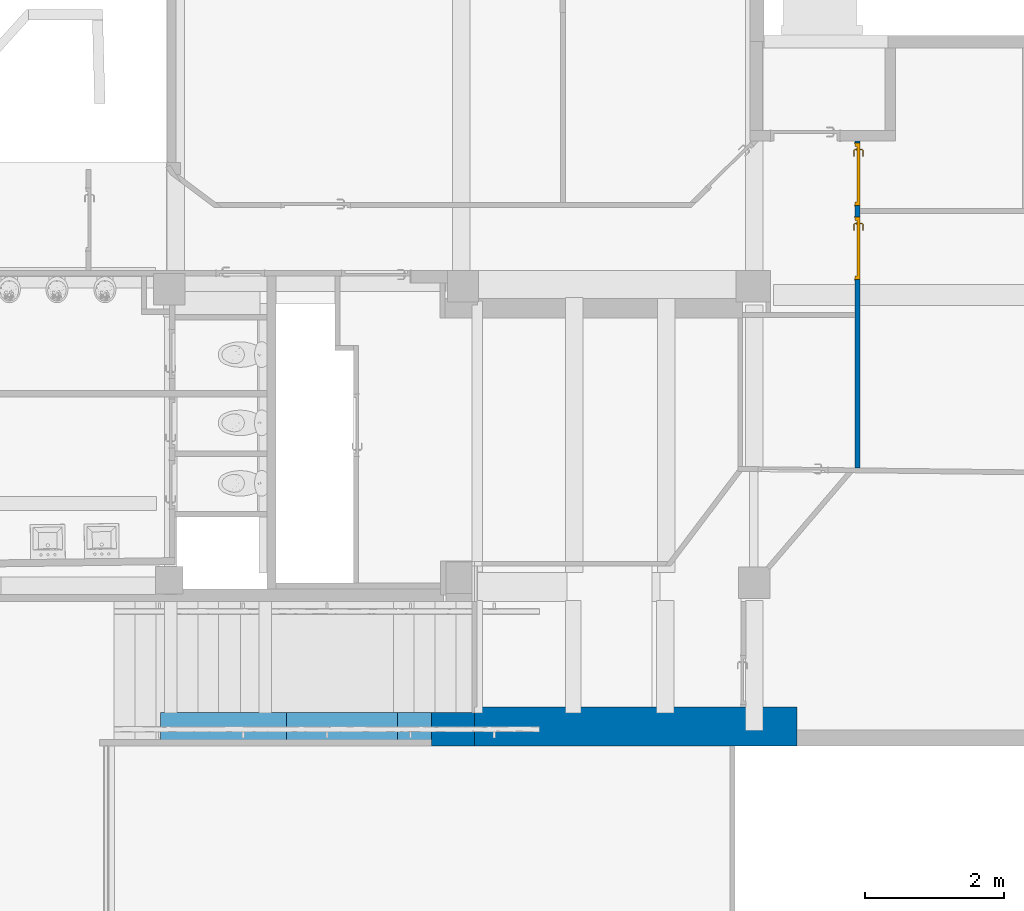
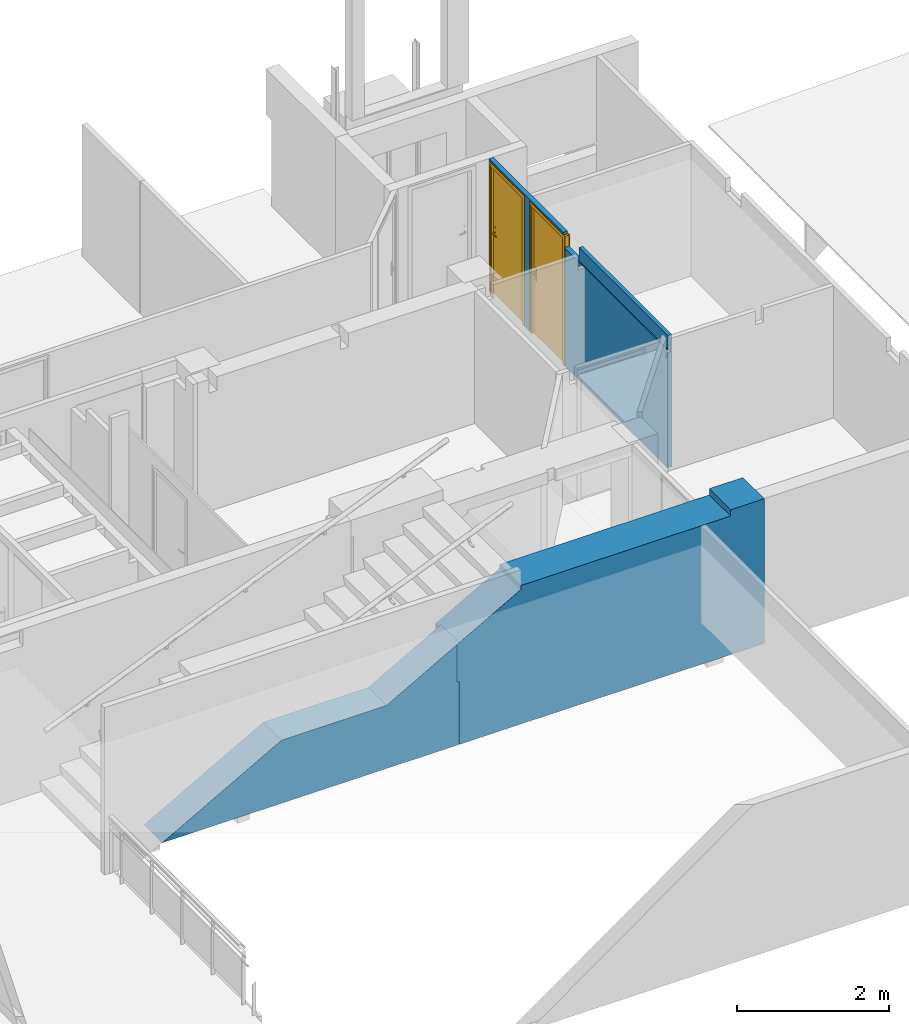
# One storey, part 15 of 32: 3 walls, 2 doors, 3 openings.
"""IFC4 building model written with IfcOpenShell, lengths in metres."""

from ifc_helpers import new_model, entity, si_unit, converted_unit, derived_unit, direction, frame, origin, place, context, subcontext, project, spatial, indexed_curve, outline, extrude, polygons, source, transform, mapped, material, material_list, layer, layer_set, constituent, constituent_set, type_object, type_shapes, element, fill, save


model = new_model("IFC4")

# Units and contexts
model_context = context("Model", 3, precision=1e-05, world=origin(), true_north=direction((6.12303176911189e-17, 1.0)))
body_context = subcontext(model_context, "Body", "Model", "MODEL_VIEW")
ifc_project = project(units=[si_unit("LENGTHUNIT", "METRE"), si_unit("AREAUNIT", "SQUARE_METRE"), si_unit("VOLUMEUNIT", "CUBIC_METRE"), converted_unit("PLANEANGLEUNIT", "DEGREE", entity("IfcRatioMeasure", 0.0174532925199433), si_unit("PLANEANGLEUNIT", "RADIAN"), dimensions=[0, 0, 0, 0, 0, 0, 0]), si_unit("MASSUNIT", "GRAM", prefix="KILO"), derived_unit("MASSDENSITYUNIT", [(si_unit("MASSUNIT", "GRAM", prefix="KILO"), 1), (si_unit("LENGTHUNIT", "METRE"), -3)]), derived_unit("MOMENTOFINERTIAUNIT", [(si_unit("LENGTHUNIT", "METRE"), 4)]), si_unit("TIMEUNIT", "SECOND"), si_unit("FREQUENCYUNIT", "HERTZ"), si_unit("THERMODYNAMICTEMPERATUREUNIT", "DEGREE_CELSIUS"), derived_unit("THERMALTRANSMITTANCEUNIT", [(si_unit("MASSUNIT", "GRAM", prefix="KILO"), 1), (si_unit("THERMODYNAMICTEMPERATUREUNIT", "KELVIN"), -1), (si_unit("TIMEUNIT", "SECOND"), -3)]), derived_unit("VOLUMETRICFLOWRATEUNIT", [(si_unit("LENGTHUNIT", "METRE"), 3), (si_unit("TIMEUNIT", "SECOND"), -1)]), si_unit("ELECTRICCURRENTUNIT", "AMPERE"), si_unit("ELECTRICVOLTAGEUNIT", "VOLT"), si_unit("POWERUNIT", "WATT"), si_unit("FORCEUNIT", "NEWTON", prefix="KILO"), si_unit("ILLUMINANCEUNIT", "LUX"), si_unit("LUMINOUSFLUXUNIT", "LUMEN"), si_unit("LUMINOUSINTENSITYUNIT", "CANDELA"), derived_unit("USERDEFINED", [(si_unit("MASSUNIT", "GRAM", prefix="KILO"), -1), (si_unit("LENGTHUNIT", "METRE"), -2), (si_unit("TIMEUNIT", "SECOND"), 3), (si_unit("LUMINOUSFLUXUNIT", "LUMEN"), 1)]), derived_unit("LINEARVELOCITYUNIT", [(si_unit("LENGTHUNIT", "METRE"), 1), (si_unit("TIMEUNIT", "SECOND"), -1)]), si_unit("PRESSUREUNIT", "PASCAL"), derived_unit("USERDEFINED", [(si_unit("LENGTHUNIT", "METRE"), -2), (si_unit("MASSUNIT", "GRAM", prefix="KILO"), 1), (si_unit("TIMEUNIT", "SECOND"), -2)]), derived_unit("LINEARFORCEUNIT", [(si_unit("MASSUNIT", "GRAM", prefix="KILO"), 1), (si_unit("LENGTHUNIT", "METRE"), 1), (si_unit("TIMEUNIT", "SECOND"), -2), (si_unit("LENGTHUNIT", "METRE"), -1)]), derived_unit("PLANARFORCEUNIT", [(si_unit("MASSUNIT", "GRAM", prefix="KILO"), 1), (si_unit("LENGTHUNIT", "METRE"), 1), (si_unit("TIMEUNIT", "SECOND"), -2), (si_unit("LENGTHUNIT", "METRE"), -2)])], contexts=[model_context])

# Site, building, storey
site_placement = place(None, origin())
site = spatial("IfcSite", under=ifc_project, at=site_placement, Name="Default", CompositionType="ELEMENT")
building_placement = place(site_placement, origin())
building = spatial("IfcBuilding", under=site, at=building_placement, Name="HOTEL CONSULAIRE BOULOGNE SUR MER", CompositionType="ELEMENT")
storey_placement = place(building_placement, frame((0.0, 0.0, -2.70343668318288)))
storey = spatial("IfcBuildingStorey", under=building, at=storey_placement, Name="SS1", CompositionType="ELEMENT", Elevation=-2.70343668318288)

# Wall, openings, doors
ifc_material_1 = material(Name="Mur par défaut", Category="Divers")
ifc_layer_1 = layer(ifc_material_1, 0.07, Name="Mur par défaut", Category="Divers")
ifc_layer_set_1 = layer_set([ifc_layer_1], Name="Mur de base:Générique - Int. 70 mm")
wall_type_1 = type_object("IfcWallType", Name="Mur de base:Générique - Int. 70 mm", PredefinedType="NOTDEFINED", material=ifc_layer_set_1)
wall_1_placement = place(storey_placement, frame((8.64960395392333, -13.4866674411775, 0.313990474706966), z_axis=(0.0, 0.0, 1.0), x_axis=(0.0, -1.0, 0.0)))
wall_1 = element("IfcWall", 1, at=wall_1_placement, inside=storey, type_object=wall_type_1, material=ifc_layer_set_1, Name="Mur de base:Générique - Int. 70 mm", ObjectType="Mur de base:Générique - Int. 70 mm", PredefinedType="NOTDEFINED", context=body_context, shape_type="Tessellation", body=[
    polygons([(0.928000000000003, 0.0350000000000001, 9.52529303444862e-06), (0.928000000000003, 0.0350000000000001, 2.07500952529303), (0.0280000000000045, 0.0349999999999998, 2.07500952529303), (0.0280000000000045, 0.0349999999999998, 0.0), (0.0, 0.0349999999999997, 0.0), (0.0, 0.0349999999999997, 2.11944620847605), (0.967544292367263, 0.0350000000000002, 2.11944620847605), (1.03754429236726, 0.0349999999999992, 2.11944620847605), (1.95368373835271, 0.0349999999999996, 2.11944620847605), (1.95368373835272, 0.0349999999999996, 2.07500952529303), (1.089, 0.0349999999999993, 2.07500952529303), (1.089, 0.0349999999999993, 0.0), (1.03754429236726, 0.0349999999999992, 0.0), (0.967544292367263, 0.0350000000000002, 0.0), (0.0, -0.0350000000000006, 2.11944620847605), (1.95368373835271, -0.0350000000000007, 2.11944620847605), (1.95368373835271, -0.0225822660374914, 2.11944620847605), (0.0280000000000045, -0.0350000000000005, 0.0), (0.0, -0.0350000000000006, 0.0), (1.089, -0.035000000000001, 0.0), (0.928000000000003, -0.0350000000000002, 0.0), (0.928000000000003, -0.0350000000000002, 2.07500952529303), (1.089, -0.035000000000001, 2.07500952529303), (1.95368373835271, -0.0350000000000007, 2.07500952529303), (0.0280000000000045, -0.0350000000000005, 2.07500952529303), (1.95368373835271, -0.0225822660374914, 2.07500952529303)], [[[11, 12, 13, 14, 1, 2, 3, 4, 5, 6, 7, 8, 9, 10]], [[7, 6, 15, 16, 17, 9, 8]], [[5, 4, 18, 19]], [[13, 12, 20, 21, 14]], [[3, 2, 22, 25]], [[11, 10, 26, 24, 23]], [[21, 1, 14]], [[19, 18, 25, 22, 21, 20, 23, 24, 16, 15]], [[5, 19, 15, 6]], [[2, 1, 21, 22]], [[4, 3, 25, 18]], [[12, 11, 23, 20]], [[26, 10, 9, 17, 16, 24]]], closed=True),
    polygons([(1.989, -0.0350000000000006, 0.0), (2.46241667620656, -0.0350000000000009, 0.0), (2.53241667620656, -0.0350000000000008, 0.0), (4.6926752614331, -0.0350000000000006, 0.0), (4.6926752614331, -0.0350000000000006, 1.89944620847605), (2.53241667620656, -0.0350000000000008, 1.89944620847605), (2.46241667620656, -0.0350000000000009, 1.89944620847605), (1.989, -0.0350000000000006, 1.89944620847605), (4.69349851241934, 0.0349999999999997, 2.11944620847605), (4.69349851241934, 0.0349999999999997, 0.0), (1.989, 0.0349999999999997, 9.52529303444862e-06), (1.989, 0.0349999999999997, 1.89944620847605), (2.35368373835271, 0.0349999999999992, 1.89944620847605), (2.35368373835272, 0.0349999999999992, 2.11944620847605), (2.35368373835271, -0.0225822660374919, 2.11944620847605), (4.69282130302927, -0.0225822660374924, 2.11944620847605), (4.69282130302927, -0.0225822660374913, 1.89944620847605), (2.35368373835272, -0.0225822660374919, 1.89944620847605)], [[[1, 2, 3, 4, 5, 6, 7, 8]], [[16, 15, 18, 17]], [[9, 10, 11, 12, 13, 14]], [[15, 16, 9, 14]], [[7, 6, 5, 17, 18, 13, 12, 8]], [[17, 5, 4, 10, 9, 16]], [[4, 3, 10]], [[11, 10, 3]], [[1, 11, 3, 2]], [[12, 11, 1, 8]], [[18, 15, 14, 13]]], closed=True),
])
opening_1_placement = place(wall_1_placement, frame((0.0280000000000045, -0.0349999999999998, 9.52529303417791e-06)))
opening_1 = element("IfcOpeningElement", 2, at=opening_1_placement, cuts=wall_1, Name="Int. Simple:PP (0.83m x 2.04m):1", ObjectType="Opening", PredefinedType="OPENING", context=body_context, shape_type="SweptSolid", body=[
    extrude(outline(indexed_curve([(0.0, 0.9), (0.0, -1.15397635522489e-30), (2.075, -1.15397635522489e-30), (2.075, 0.9), (0.0, 0.9)], self_intersect=False)), frame((0.0, 0.0, 0.0), z_axis=(0.0, 1.0, 0.0), x_axis=(0.0, 0.0, 1.0)), (0.0, 0.0, 1.0), 0.07),
])
opening_2_placement = place(wall_1_placement, frame((1.089, -0.0349999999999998, 9.52529303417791e-06)))
opening_2 = element("IfcOpeningElement", 3, at=opening_2_placement, cuts=wall_1, Name="Int. Simple:PP (0.83m x 2.04m):1", ObjectType="Opening", PredefinedType="OPENING", context=body_context, shape_type="SweptSolid", body=[
    extrude(outline(indexed_curve([(0.0, 0.9), (0.0, -1.15397635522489e-30), (2.075, -1.15397635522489e-30), (2.075, 0.9), (0.0, 0.9)], self_intersect=False)), frame((0.0, 0.0, 0.0), z_axis=(0.0, 1.0, 0.0), x_axis=(0.0, 0.0, 1.0)), (0.0, 0.0, 1.0), 0.07),
])
ifc_material_2 = material(Name="Finition Peinture - Blanc satiné", Category="Peinture")
ifc_constituent_1 = constituent(ifc_material_2, Name="Finition Peinture - Blanc satiné", Category="Matériaux")
ifc_material_3 = material(Name="Bois - Panneau de porte", Category="Bois")
ifc_constituent_2 = constituent(ifc_material_3, Name="Bois - Panneau de porte", Category="Matériaux")
ifc_material_4 = material(Name="Bois - Cadre de porte", Category="Bois")
ifc_constituent_3 = constituent(ifc_material_4, Name="Bois - Cadre de porte", Category="Matériaux")
ifc_constituent_set_1 = constituent_set(constituents=[ifc_constituent_1, ifc_constituent_2, ifc_constituent_3], Name="MaterialConstituentSet")
ifc_material_list = material_list([ifc_material_3, ifc_material_2, ifc_material_4, ifc_material_4])
door_type = type_object("IfcDoorType", Name="Int. Simple:PP (0.83m x 2.04m)", OperationType="NOTDEFINED", PredefinedType="DOOR", material=ifc_material_list)
shared_shape = source(origin(), body_context, "Body", "Tessellation", [
    polygons([(0.895000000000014, -0.00500000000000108, 0.870000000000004), (0.895000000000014, -0.00500000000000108, 1.08), (0.885352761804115, -0.00500000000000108, 1.08399601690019), (0.875000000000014, -0.00500000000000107, 1.08535898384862), (0.864647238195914, -0.00500000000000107, 1.08399601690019), (0.855000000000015, -0.00500000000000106, 1.08), (0.855000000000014, -0.00500000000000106, 0.870000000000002), (0.864647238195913, -0.00500000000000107, 0.866003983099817), (0.875000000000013, -0.00500000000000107, 0.86464101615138), (0.885352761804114, -0.00500000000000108, 0.866003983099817), (0.895000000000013, -1.07440722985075e-15, 0.870000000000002), (0.885352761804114, -1.07017728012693e-15, 0.866003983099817), (0.875000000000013, -1.06594733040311e-15, 0.86464101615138), (0.864647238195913, -1.06171738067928e-15, 0.866003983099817), (0.855000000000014, -1.05748743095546e-15, 0.870000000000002), (0.855000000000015, -1.05748743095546e-15, 1.08), (0.864647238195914, -1.06171738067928e-15, 1.08399601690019), (0.875000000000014, -1.06594733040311e-15, 1.08535898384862), (0.885352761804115, -1.07017728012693e-15, 1.08399601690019), (0.895000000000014, -1.07440722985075e-15, 1.08)], [[[1, 2, 3, 4, 5, 6, 7, 8, 9, 10]], [[20, 11, 12, 13, 14, 15, 16, 17, 18, 19]], [[10, 12, 11, 1]], [[9, 13, 12, 10]], [[8, 14, 13, 9]], [[8, 7, 15, 14]], [[15, 7, 6, 16]], [[5, 17, 16, 6]], [[4, 18, 17, 5]], [[3, 19, 18, 4]], [[3, 2, 20, 19]], [[11, 20, 2, 1]]], closed=True),
    polygons([(0.855000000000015, 0.0399999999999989, 1.08), (0.855000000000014, 0.0399999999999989, 0.870000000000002), (0.864647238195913, 0.0399999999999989, 0.866003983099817), (0.875000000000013, 0.0399999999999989, 0.86464101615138), (0.885352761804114, 0.0399999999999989, 0.866003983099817), (0.895000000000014, 0.0399999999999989, 0.870000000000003), (0.895000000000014, 0.0399999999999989, 1.08), (0.885352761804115, 0.0399999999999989, 1.08399601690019), (0.875000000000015, 0.0399999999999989, 1.08535898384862), (0.864647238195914, 0.0399999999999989, 1.08399601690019), (0.855000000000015, 0.0449999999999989, 1.08), (0.864647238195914, 0.0449999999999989, 1.08399601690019), (0.875000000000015, 0.0449999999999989, 1.08535898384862), (0.885352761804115, 0.0449999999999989, 1.08399601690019), (0.895000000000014, 0.0449999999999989, 1.08), (0.895000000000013, 0.0449999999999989, 0.870000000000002), (0.885352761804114, 0.0449999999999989, 0.866003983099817), (0.875000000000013, 0.0449999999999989, 0.86464101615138), (0.864647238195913, 0.0449999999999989, 0.866003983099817), (0.855000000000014, 0.0449999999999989, 0.870000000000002)], [[[6, 7, 8, 9, 10, 1, 2, 3, 4, 5]], [[13, 14, 15, 16, 17, 18, 19, 20, 11, 12]], [[10, 12, 11, 1]], [[9, 13, 12, 10]], [[8, 14, 13, 9]], [[8, 7, 15, 14]], [[16, 15, 7, 6]], [[5, 17, 16, 6]], [[4, 18, 17, 5]], [[3, 19, 18, 4]], [[3, 2, 20, 19]], [[20, 2, 1, 11]]], closed=True),
    polygons([(0.881000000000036, -0.00500000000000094, 1.00699999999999), (0.881000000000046, -0.00500000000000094, 0.992999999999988), (0.877025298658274, -0.00500000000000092, 0.99221955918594), (0.872974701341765, -0.00500000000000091, 0.992219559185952), (0.868999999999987, -0.00500000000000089, 0.993000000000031), (0.868999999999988, -0.00500000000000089, 1.007), (0.872974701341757, -0.00500000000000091, 1.00778044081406), (0.877025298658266, -0.00500000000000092, 1.00778044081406), (0.868999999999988, -0.0276803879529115, 1.007), (0.872974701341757, -0.0293267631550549, 1.00778044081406), (0.877025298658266, -0.0310045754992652, 1.00778044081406), (0.881000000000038, -0.0326509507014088, 1.007), (0.868999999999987, -0.0276803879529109, 0.993000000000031), (0.881000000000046, -0.0326509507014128, 0.992999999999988), (0.877025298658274, -0.0310045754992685, 0.99221955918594), (0.872974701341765, -0.0293267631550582, 0.992219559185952), (0.85765222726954, -0.0390281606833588, 1.007), (0.859298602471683, -0.0430028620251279, 1.00778044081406), (0.860976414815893, -0.0470534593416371, 1.00778044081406), (0.862622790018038, -0.051028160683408, 1.007), (0.857652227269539, -0.0390281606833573, 0.993000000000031), (0.862622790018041, -0.0510281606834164, 0.992999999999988), (0.860976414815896, -0.0470534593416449, 0.99221955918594), (0.859298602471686, -0.0430028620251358, 0.992219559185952), (0.774981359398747, -0.0510281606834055, 1.007), (0.774981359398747, -0.0470534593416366, 1.00778044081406), (0.774981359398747, -0.0430028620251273, 1.00778044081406), (0.774981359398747, -0.0390281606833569, 1.00699999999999), (0.774981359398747, -0.0390281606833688, 0.993000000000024), (0.774981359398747, -0.0430028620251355, 0.992219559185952), (0.774981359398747, -0.0470534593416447, 0.99221955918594), (0.774981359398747, -0.0510281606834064, 0.992999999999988), (0.822692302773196, -0.051028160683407, 1.007), (0.81713998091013, -0.045028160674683, 1.0078786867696), (0.816316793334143, -0.039028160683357, 1.007), (0.822692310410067, -0.0510281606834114, 0.992999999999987), (0.817139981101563, -0.0450281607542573, 0.992121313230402), (0.816316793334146, -0.039028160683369, 0.993000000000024)], [[[7, 8, 1, 2, 3, 4, 5, 6]], [[17, 21, 38, 29, 28, 35]], [[1, 8, 11, 12]], [[8, 7, 10, 18, 19, 11]], [[7, 6, 9, 10]], [[13, 9, 6, 5]], [[25, 26, 27, 28, 29, 30, 31, 32]], [[4, 16, 13, 5]], [[4, 3, 15, 23, 24, 16]], [[2, 14, 15, 3]], [[12, 14, 2, 1]], [[12, 11, 19, 20]], [[10, 9, 17, 18]], [[21, 17, 9, 13]], [[13, 16, 24, 21]], [[15, 14, 22, 23]], [[20, 22, 14, 12]], [[34, 26, 33]], [[33, 26, 25]], [[33, 20, 19]], [[18, 35, 34]], [[35, 18, 17]], [[28, 27, 35]], [[34, 27, 26]], [[34, 35, 27]], [[34, 33, 19]], [[18, 34, 19]], [[37, 30, 38]], [[31, 37, 36]], [[24, 38, 21]], [[30, 29, 38]], [[31, 36, 32]], [[36, 23, 22]], [[37, 23, 36]], [[37, 24, 23]], [[37, 38, 24]], [[30, 37, 31]], [[22, 20, 33, 25, 32, 36]]], closed=True),
    polygons([(0.868999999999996, 0.0449999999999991, 0.993000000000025), (0.872974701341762, 0.0449999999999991, 0.992219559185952), (0.877025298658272, 0.044999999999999, 0.99221955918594), (0.881000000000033, 0.044999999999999, 0.992999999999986), (0.881000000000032, 0.044999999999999, 1.007), (0.877025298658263, 0.044999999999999, 1.00778044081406), (0.872974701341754, 0.0449999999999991, 1.00778044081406), (0.868999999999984, 0.0449999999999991, 1.007), (0.868999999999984, 0.067485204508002, 1.007), (0.868999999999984, 0.0674852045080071, 0.993000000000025), (0.881000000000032, 0.0724557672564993, 1.007), (0.877025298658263, 0.070809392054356, 1.00778044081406), (0.872974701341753, 0.0691315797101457, 1.00778044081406), (0.881000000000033, 0.0724557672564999, 0.992999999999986), (0.872974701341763, 0.0691315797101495, 0.992219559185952), (0.877025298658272, 0.0708093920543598, 0.99221955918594), (0.857514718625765, 0.0789704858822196, 1.007), (0.857514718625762, 0.0789704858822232, 0.993000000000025), (0.862485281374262, 0.0909704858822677, 1.007), (0.860838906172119, 0.0869957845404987, 1.00778044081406), (0.859161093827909, 0.0829451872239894, 1.00778044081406), (0.862485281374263, 0.0909704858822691, 0.992999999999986), (0.859161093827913, 0.0829451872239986, 0.992219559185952), (0.860838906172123, 0.0869957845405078, 0.99221955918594), (0.77495421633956, 0.0789704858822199, 0.993000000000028), (0.77495421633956, 0.0789704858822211, 1.007), (0.77495421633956, 0.0829451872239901, 1.00778044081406), (0.77495421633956, 0.0869957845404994, 1.00778044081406), (0.77495421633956, 0.0909704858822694, 1.007), (0.77495421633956, 0.0909704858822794, 0.992999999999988), (0.77495421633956, 0.086995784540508, 0.99221955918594), (0.77495421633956, 0.0829451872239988, 0.992219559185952), (0.822554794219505, 0.0909704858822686, 1.007), (0.817057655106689, 0.0849704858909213, 1.0078786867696), (0.816234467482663, 0.0789704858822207, 1.007), (0.822554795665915, 0.0909704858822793, 0.992999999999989), (0.817057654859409, 0.0849704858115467, 0.992121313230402), (0.816234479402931, 0.0789704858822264, 0.993000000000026)], [[[2, 3, 4, 5, 6, 7, 8, 1]], [[18, 17, 35, 26, 25, 38]], [[9, 10, 1, 8]], [[27, 28, 29, 30, 31, 32, 25, 26]], [[7, 13, 9, 8]], [[7, 6, 12, 20, 21, 13]], [[5, 11, 12, 6]], [[11, 5, 4, 14]], [[4, 3, 16, 14]], [[3, 2, 15, 23, 24, 16]], [[2, 1, 10, 15]], [[17, 18, 10, 9]], [[9, 13, 21, 17]], [[11, 19, 20, 12]], [[22, 19, 11, 14]], [[14, 16, 24, 22]], [[15, 10, 18, 23]], [[34, 27, 35]], [[28, 34, 33]], [[21, 35, 17]], [[27, 26, 35]], [[28, 33, 29]], [[33, 20, 19]], [[34, 20, 33]], [[34, 21, 20]], [[34, 35, 21]], [[27, 34, 28]], [[19, 22, 36, 30, 29, 33]], [[37, 31, 36]], [[36, 31, 30]], [[36, 22, 24]], [[23, 38, 37]], [[38, 23, 18]], [[25, 32, 38]], [[37, 32, 31]], [[37, 38, 32]], [[37, 36, 24]], [[23, 37, 24]]], closed=True),
    polygons([(0.935000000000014, 0.04, 2.04), (0.935000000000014, 0.04, 0.0), (0.105000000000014, 0.04, 0.0), (0.105000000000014, 0.04, 2.04), (0.935000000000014, 2.53796983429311e-17, 2.04), (0.105000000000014, 2.53796983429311e-17, 2.04), (0.105000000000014, 2.53796983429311e-17, 0.0), (0.935000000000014, 2.53796983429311e-17, 0.0)], [[[3, 4, 1, 2]], [[5, 6, 7, 8]], [[5, 1, 4, 6]], [[6, 4, 3, 7]], [[8, 7, 3, 2]], [[8, 2, 1, 5]]], closed=True),
    polygons([(0.970000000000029, -4.22994972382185e-18, 0.0), (0.935000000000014, -4.22994972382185e-18, 0.0), (0.935000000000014, 0.04, 0.0), (0.920000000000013, 0.04, 0.0), (0.920000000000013, 0.0699999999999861, 0.0), (0.970000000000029, 0.0699999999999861, 0.0), (0.970000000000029, 0.0699999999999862, 2.07500000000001), (0.970000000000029, -4.22994972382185e-18, 2.07500000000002), (0.920000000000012, 0.0699999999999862, 2.025), (0.120000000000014, 0.0699999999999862, 2.025), (0.120000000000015, 0.0699999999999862, -4.08259727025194e-24), (0.0699999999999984, 0.0699999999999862, 5.8808818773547e-24), (0.0699999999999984, 0.0699999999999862, 2.07500000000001), (0.920000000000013, 0.04, 2.025), (0.935000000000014, 0.04, 2.04), (0.105000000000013, 0.04, 2.04), (0.105000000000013, 0.04, -2.52000145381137e-24), (0.120000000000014, 0.04, 1.99209647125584e-25), (0.120000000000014, 0.04, 2.025), (0.935000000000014, -4.22994972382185e-18, 2.04), (0.0699999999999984, -4.22994972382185e-18, 2.07500000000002), (0.0699999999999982, -4.22994972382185e-18, -3.95490699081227e-25), (0.105000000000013, -4.22994972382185e-18, -1.26556696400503e-24), (0.105000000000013, -4.22994972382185e-18, 2.04)], [[[4, 5, 6, 1, 2, 3]], [[17, 23, 22, 12, 11, 18]], [[19, 10, 9, 14]], [[24, 16, 15, 20]], [[7, 8, 1, 6]], [[11, 10, 19, 18]], [[23, 17, 16, 24]], [[9, 10, 11, 12, 13, 7, 6, 5]], [[9, 5, 4, 14]], [[15, 3, 2, 20]], [[12, 22, 21, 13]], [[19, 14, 4, 3, 15, 16, 17, 18]], [[24, 20, 2, 1, 8, 21, 22, 23]], [[13, 21, 8, 7]]], closed=True),
    polygons([(0.955000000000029, 0.0699999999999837, 1.35358391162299e-16), (0.955000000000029, 0.0749999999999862, 1.35358391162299e-16), (0.985000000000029, 0.0749999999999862, 1.35358391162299e-16), (0.985000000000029, 0.0699999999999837, 1.35358391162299e-16), (0.985000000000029, 0.0699999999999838, 2.09000000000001), (0.0550000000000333, 0.0699999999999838, 2.09000000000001), (0.0550000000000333, 0.0699999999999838, -4.03399441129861e-24), (0.0850000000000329, 0.0699999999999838, 4.03399441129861e-24), (0.0850000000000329, 0.0699999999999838, 2.06000000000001), (0.955000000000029, 0.0699999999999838, 2.06000000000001), (0.985000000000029, 0.0749999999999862, 2.09000000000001), (0.955000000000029, 0.0749999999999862, 2.06000000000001), (0.0850000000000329, 0.0749999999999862, 2.06000000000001), (0.0850000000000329, 0.0749999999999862, 0.0), (0.0550000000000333, 0.0749999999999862, -4.03399441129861e-24), (0.0550000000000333, 0.0749999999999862, 2.09000000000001)], [[[2, 3, 4, 1]], [[7, 15, 14, 8]], [[13, 12, 10, 9]], [[9, 10, 1, 4, 5, 6, 7, 8]], [[11, 5, 4, 3]], [[8, 14, 13, 9]], [[12, 13, 14, 15, 16, 11, 3, 2]], [[10, 12, 2, 1]], [[15, 7, 6, 16]], [[16, 6, 5, 11]]], closed=True),
    polygons([(0.955000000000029, -0.005, 1.35358391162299e-16), (0.955000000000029, -8.33300095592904e-16, 1.35358391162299e-16), (0.985000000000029, -8.33300095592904e-16, 1.35358391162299e-16), (0.985000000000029, -0.005, 1.35358391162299e-16), (0.0850000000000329, -0.005, -1.35358391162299e-16), (0.0550000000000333, -0.005, -1.35358391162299e-16), (0.0550000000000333, -8.33300095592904e-16, -1.35358391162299e-16), (0.0850000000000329, -8.33300095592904e-16, -1.35358391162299e-16), (0.985000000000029, -0.005, 2.09000000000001), (0.0550000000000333, -0.005, 2.09000000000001), (0.0850000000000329, -0.005, 2.06000000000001), (0.955000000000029, -0.005, 2.06000000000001), (0.985000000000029, -8.33300095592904e-16, 2.09000000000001), (0.955000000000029, -8.33300095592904e-16, 2.06000000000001), (0.0850000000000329, -8.33300095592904e-16, 2.06000000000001), (0.0550000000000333, -8.33300095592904e-16, 2.09000000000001)], [[[2, 3, 4, 1]], [[6, 7, 8, 5]], [[15, 14, 12, 11]], [[11, 12, 1, 4, 9, 10, 6, 5]], [[9, 4, 3, 13]], [[5, 8, 15, 11]], [[14, 15, 8, 7, 16, 13, 3, 2]], [[12, 14, 2, 1]], [[6, 10, 16, 7]], [[10, 9, 13, 16]]], closed=True),
])
type_shapes(door_type, [shared_shape])
door_1_placement = place(opening_1_placement, frame((0.970000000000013, 0.0699999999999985, 0.0), z_axis=(0.0, 0.0, 1.0), x_axis=(-1.0, 0.0, 0.0)))
door_1 = element("IfcDoor", 4, at=door_1_placement, inside=storey, type_object=door_type, material=ifc_constituent_set_1, Name="Int. Simple:PP (0.83m x 2.04m)", ObjectType="Int. Simple:PP (0.83m x 2.04m)", OperationType="NOTDEFINED", OverallHeight=2.075, OverallWidth=0.899999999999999, PredefinedType="DOOR", context=body_context, shape_type="MappedRepresentation", body=[
    mapped(shared_shape, transform((0.0, 0.0, 0.0), scale=1.0)),
])
fill(opening_1, door_1)
ifc_constituent_4 = constituent(ifc_material_2, Name="Finition Peinture - Blanc satiné", Category="Matériaux")
ifc_constituent_5 = constituent(ifc_material_3, Name="Bois - Panneau de porte", Category="Matériaux")
ifc_constituent_6 = constituent(ifc_material_4, Name="Bois - Cadre de porte", Category="Matériaux")
ifc_constituent_set_2 = constituent_set(constituents=[ifc_constituent_4, ifc_constituent_5, ifc_constituent_6], Name="MaterialConstituentSet")
door_2_placement = place(opening_2_placement, frame((0.970000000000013, 0.0699999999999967, 0.0), z_axis=(0.0, 0.0, 1.0), x_axis=(-1.0, 0.0, 0.0)))
door_2 = element("IfcDoor", 5, at=door_2_placement, inside=storey, type_object=door_type, material=ifc_constituent_set_2, Name="Int. Simple:PP (0.83m x 2.04m)", ObjectType="Int. Simple:PP (0.83m x 2.04m)", OperationType="NOTDEFINED", OverallHeight=2.075, OverallWidth=0.900000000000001, PredefinedType="DOOR", context=body_context, shape_type="MappedRepresentation", body=[
    mapped(shared_shape, transform((0.0, 0.0, 0.0), scale=1.0)),
])
fill(opening_2, door_2)

# Wall, opening
ifc_layer_2 = layer(ifc_material_1, 0.48, Name="Mur par défaut", Category="Divers")
ifc_layer_set_2 = layer_set([ifc_layer_2], Name="Mur de base:Générique - Int. 480 mm")
wall_type_2 = type_object("IfcWallType", Name="Mur de base:Générique - Int. 480 mm", PredefinedType="NOTDEFINED", material=ifc_layer_set_2)
wall_2_placement = place(storey_placement, frame((-1.35418651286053, -21.9292190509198, 0.208475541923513)))
wall_2 = element("IfcWall", 6, at=wall_2_placement, inside=storey, type_object=wall_type_2, material=ifc_layer_set_2, Name="Mur de base:Générique - Int. 480 mm", ObjectType="Mur de base:Générique - Int. 480 mm", PredefinedType="NOTDEFINED", context=body_context, shape_type="Tessellation", body=[
    polygons([(4.50702757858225, -0.239999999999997, 5.41433564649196e-16), (4.50702757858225, -0.239999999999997, 1.63500926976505), (3.40307013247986, -0.239999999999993, 1.01324279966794), (1.80803717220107, -0.239999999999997, 1.01324279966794), (-9.5751451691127e-17, -0.239999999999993, 0.0), (4.50702757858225, 0.240000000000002, 1.63500926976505), (4.50702757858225, 0.240000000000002, 1.61520686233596), (4.50702757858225, 0.240000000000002, 0.0915244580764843), (4.50702757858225, 0.240000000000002, 5.41433564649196e-16), (-9.30028114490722e-17, 0.240000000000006, 0.0), (1.80803717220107, 0.240000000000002, 1.01324279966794), (3.40307013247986, 0.240000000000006, 1.01324279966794)], [[[5, 1, 2, 3, 4]], [[6, 7, 8, 9, 10, 11, 12]], [[1, 5, 10, 9]], [[2, 1, 9, 8, 7, 6]], [[4, 3, 12, 11]], [[5, 4, 11, 10]], [[3, 2, 6, 12]]], closed=True),
])
opening_3_placement = place(wall_2_placement, origin())
element("IfcOpeningElement", 7, at=opening_3_placement, cuts=wall_2, Name="Mur de base:Générique - Int. 480 mm", ObjectType="Opening", PredefinedType="OPENING", context=body_context, shape_type="SweptSolid", body=[
    extrude(outline(indexed_curve([(-1.43134112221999, -0.207255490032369), (0.163691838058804, -0.207255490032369), (1.26764928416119, 0.414510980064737), (-1.43134112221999, -0.207255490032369)], self_intersect=False)), frame((3.23937829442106, 0.240000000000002, 1.22049828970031), z_axis=(0.0, -1.0, 0.0), x_axis=(1.0, 0.0, 0.0)), (0.0, 0.0, 1.0), 0.48),
])

# Wall
ifc_layer_3 = layer(ifc_material_1, 0.56, Name="Mur par défaut", Category="Divers")
ifc_layer_set_3 = layer_set([ifc_layer_3], Name="Mur de base:Générique - Int.  560 mm")
wall_type_3 = type_object("IfcWallType", Name="Mur de base:Générique - Int.  560 mm", PredefinedType="NOTDEFINED", material=ifc_layer_set_3)
wall_3_placement = place(storey_placement, frame((3.11784106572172, -21.8903777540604, 0.208475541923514)))
element("IfcWall", 8, at=wall_3_placement, inside=storey, type_object=wall_type_3, material=ifc_layer_set_3, Name="Mur de base:Générique - Int.  560 mm", ObjectType="Mur de base:Générique - Int.  560 mm", PredefinedType="NOTDEFINED", context=body_context, shape_type="Tessellation", body=[
    polygons([(0.0350000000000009, -0.279999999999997, 1.01324279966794), (0.0350000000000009, -0.279999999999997, 0.0), (4.665, -0.279999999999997, 0.0), (4.665, -0.279999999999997, 2.3249611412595), (4.15429613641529, -0.279999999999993, 2.3249611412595), (4.15429613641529, -0.279999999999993, 2.2249611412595), (3.77188638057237, -0.279999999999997, 2.2249611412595), (3.70188638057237, -0.279999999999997, 2.2249611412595), (0.969573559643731, -0.279999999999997, 2.2249611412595), (0.969573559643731, -0.279999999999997, 2.16137602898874), (7.2031326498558e-16, -0.279999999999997, 1.61529671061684), (7.2031326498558e-16, -0.279999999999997, 1.01324279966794), (0.0350000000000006, 0.280000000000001, 0.0), (0.0350000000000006, 0.280000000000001, 0.091524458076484), (0.0350000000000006, 0.280000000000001, 0.105514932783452), (0.0350000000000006, 0.280000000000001, 1.01324279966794), (-8.8630335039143e-17, 0.280000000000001, 1.01324279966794), (-8.8630335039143e-17, 0.280000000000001, 1.61529671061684), (0.969573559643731, 0.280000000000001, 2.16137602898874), (0.96957355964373, 0.280000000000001, 2.2249611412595), (3.85908580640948, 0.280000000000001, 2.2249611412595), (3.92908580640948, 0.280000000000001, 2.2249611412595), (4.15429613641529, 0.280000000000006, 2.2249611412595), (4.15429613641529, 0.280000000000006, 2.3249611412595), (4.665, 0.280000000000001, 2.3249611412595), (4.665, 0.280000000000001, 0.0), (0.0350000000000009, -0.278841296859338, 0.0), (0.0350000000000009, 0.201158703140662, 0.0), (4.665, -0.163841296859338, 0.0), (4.665, -0.278841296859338, 0.0), (4.665, -0.0488412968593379, 2.3249611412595), (4.665, -0.278841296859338, 2.3249611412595), (0.969573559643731, -0.188841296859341, 2.16137602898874), (0.969573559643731, -0.278841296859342, 2.16137602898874)], [[[1, 2, 3, 4, 5, 6, 7, 8, 9, 10, 11, 12]], [[26, 13, 14, 15, 16, 17, 18, 19, 20, 21, 22, 23, 24, 25]], [[2, 27, 28, 13, 26, 29, 30, 3]], [[1, 12, 17, 16]], [[3, 30, 29, 26, 25, 31, 32, 4]], [[5, 4, 32, 31, 25, 24]], [[8, 7, 6, 23, 22, 21, 20, 9]], [[10, 9, 20, 19, 33, 34]], [[27, 2, 1, 16, 15, 14, 13, 28]], [[18, 17, 12, 11]], [[6, 5, 24, 23]], [[11, 10, 34, 33, 19, 18]]], closed=True),
])

save(model, "model.ifc")
